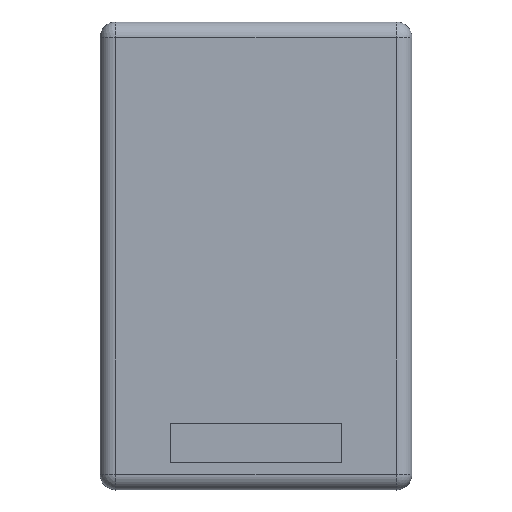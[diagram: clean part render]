
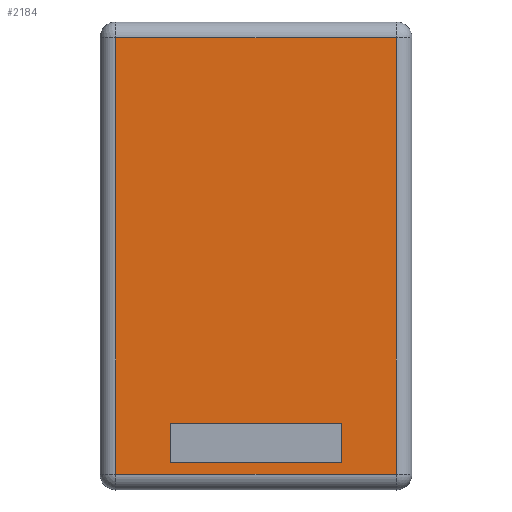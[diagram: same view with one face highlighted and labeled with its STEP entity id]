
A CAD part, top view. The second image highlights one B-rep face of the part: STEP entity #2184.
In plain terms, the highlighted planar face has unit normal (0, 0, 1).
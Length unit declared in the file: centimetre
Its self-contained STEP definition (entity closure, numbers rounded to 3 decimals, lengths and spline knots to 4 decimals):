
#33=FACE_BOUND('',#717,.T.);
#79=PLANE('',#2487);
#211=LINE('',#4021,#357);
#215=LINE('',#4030,#361);
#219=LINE('',#4036,#365);
#220=LINE('',#4038,#366);
#222=LINE('',#4057,#368);
#224=LINE('',#4066,#370);
#225=LINE('',#4068,#371);
#226=LINE('',#4070,#372);
#357=VECTOR('',#3141,1.);
#361=VECTOR('',#3149,1.);
#365=VECTOR('',#3155,1.);
#366=VECTOR('',#3158,1.);
#368=VECTOR('',#3186,1.);
#370=VECTOR('',#3200,1.);
#371=VECTOR('',#3203,1.);
#372=VECTOR('',#3206,1.);
#569=FACE_OUTER_BOUND('',#716,.T.);
#716=EDGE_LOOP('',(#1998,#1999,#2000,#2001));
#717=EDGE_LOOP('',(#2002,#2003,#2004,#2005));
#1047=VERTEX_POINT('',#4013);
#1050=VERTEX_POINT('',#4019);
#1052=VERTEX_POINT('',#4027);
#1053=VERTEX_POINT('',#4029);
#1055=VERTEX_POINT('',#4041);
#1056=VERTEX_POINT('',#4045);
#1057=VERTEX_POINT('',#4049);
#1059=VERTEX_POINT('',#4060);
#1351=EDGE_CURVE('',#1047,#1050,#211,.T.);
#1355=EDGE_CURVE('',#1053,#1052,#215,.T.);
#1359=EDGE_CURVE('',#1050,#1053,#219,.T.);
#1360=EDGE_CURVE('',#1052,#1047,#220,.T.);
#1369=EDGE_CURVE('',#1055,#1057,#222,.T.);
#1374=EDGE_CURVE('',#1057,#1059,#224,.T.);
#1375=EDGE_CURVE('',#1059,#1056,#225,.T.);
#1376=EDGE_CURVE('',#1056,#1055,#226,.T.);
#1998=ORIENTED_EDGE('',*,*,#1369,.F.);
#1999=ORIENTED_EDGE('',*,*,#1376,.F.);
#2000=ORIENTED_EDGE('',*,*,#1375,.F.);
#2001=ORIENTED_EDGE('',*,*,#1374,.F.);
#2002=ORIENTED_EDGE('',*,*,#1355,.T.);
#2003=ORIENTED_EDGE('',*,*,#1360,.T.);
#2004=ORIENTED_EDGE('',*,*,#1351,.T.);
#2005=ORIENTED_EDGE('',*,*,#1359,.T.);
#2184=ADVANCED_FACE('',(#569,#33),#79,.T.);
#2487=AXIS2_PLACEMENT_3D('',#4072,#3209,#3210);
#3141=DIRECTION('',(0.,-1.,0.));
#3149=DIRECTION('',(0.,1.,0.));
#3155=DIRECTION('',(-1.,0.,0.));
#3158=DIRECTION('',(1.,0.,0.));
#3186=DIRECTION('',(1.,0.,0.));
#3200=DIRECTION('',(0.,-1.,0.));
#3203=DIRECTION('',(-1.,0.,0.));
#3206=DIRECTION('',(0.,1.,0.));
#3209=DIRECTION('center_axis',(0.,0.,1.));
#3210=DIRECTION('ref_axis',(1.,0.,0.));
#4013=CARTESIAN_POINT('',(1.1,-2.15,2.));
#4019=CARTESIAN_POINT('',(1.1,-2.65,2.));
#4021=CARTESIAN_POINT('',(1.1,-1.075,2.));
#4027=CARTESIAN_POINT('',(-1.1,-2.15,2.));
#4029=CARTESIAN_POINT('',(-1.1,-2.65,2.));
#4030=CARTESIAN_POINT('',(-1.1,-1.325,2.));
#4036=CARTESIAN_POINT('',(0.55,-2.65,2.));
#4038=CARTESIAN_POINT('',(-0.55,-2.15,2.));
#4041=CARTESIAN_POINT('',(-1.8,2.8,2.));
#4045=CARTESIAN_POINT('',(-1.8,-2.8,2.));
#4049=CARTESIAN_POINT('',(1.8,2.8,2.));
#4057=CARTESIAN_POINT('',(1.,2.8,2.));
#4060=CARTESIAN_POINT('',(1.8,-2.8,2.));
#4066=CARTESIAN_POINT('',(1.8,-1.5,2.));
#4068=CARTESIAN_POINT('',(-1.,-2.8,2.));
#4070=CARTESIAN_POINT('',(-1.8,1.5,2.));
#4072=CARTESIAN_POINT('Origin',(0.,0.,
2.));
